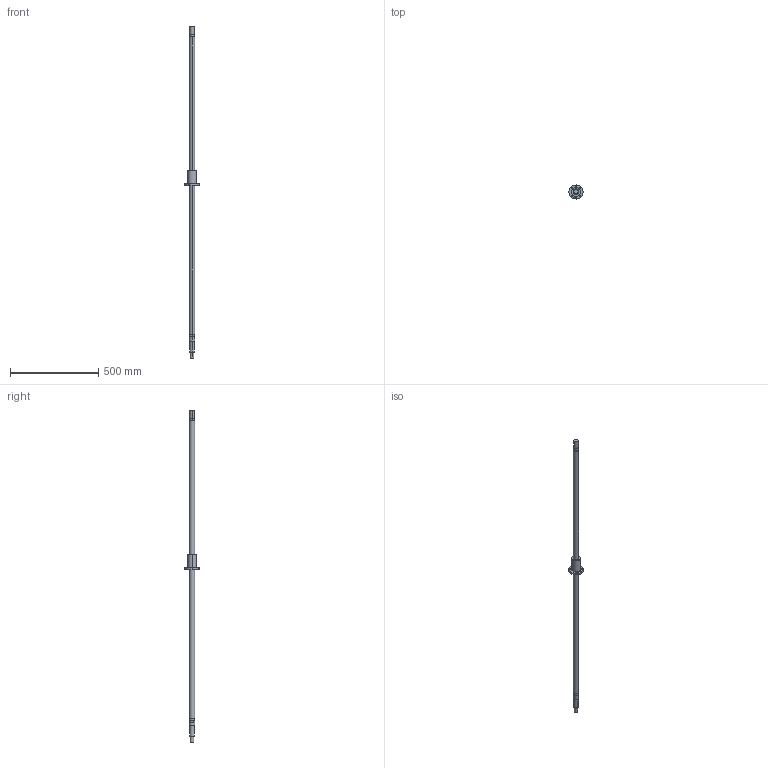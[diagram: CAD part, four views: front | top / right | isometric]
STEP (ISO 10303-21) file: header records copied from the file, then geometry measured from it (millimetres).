
FILE_DESCRIPTION((''),'2;1');
FILE_NAME('ASM0001_ASM','2008-04-11T',('cmliu'),(''),'PRO/ENGINEER BY PARAMETRIC TECHNOLOGY CORPORATION, 2004110','PRO/ENGINEER BY PARAMETRIC TECHNOLOGY CORPORATION, 2004110','');
FILE_SCHEMA(('CONFIG_CONTROL_DESIGN'));
Length unit declared in the file: millimetre
Products named in the file (3): 3232; 32-32K2; ASM0001_ASM
Assembly tree (2 placements, depth 2):
  ASM0001_ASM
    3232
    32-32K2
Bounding box: 80 x 80 x 1876 mm (x, y, z)
Volume: 1614226.7 mm3; surface area: 222820.9 mm2
Topology: 2 solids, 2 shells, 67 faces, 156 edges, 104 vertices
Faces by surface type: cylinder 45, plane 22
Entity records: 2163 total; most frequent: CARTESIAN_POINT 426, DIRECTION 382, ORIENTED_EDGE 312, AXIS2_PLACEMENT_3D 162, EDGE_CURVE 156, VERTEX_POINT 104, EDGE_LOOP 94, CIRCLE 90
